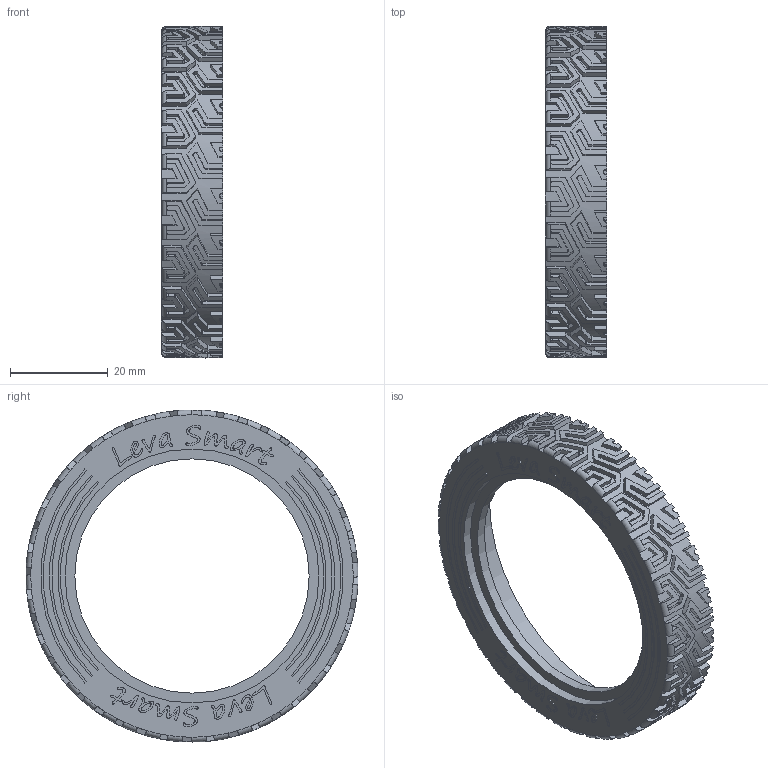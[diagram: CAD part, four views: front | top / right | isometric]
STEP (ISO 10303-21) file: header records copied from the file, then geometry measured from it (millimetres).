
FILE_DESCRIPTION(/* description */ ('STEP AP242 Edition 2','CAx-IF Rec.Pracs.---Representation and Presentation of Product Manufacturing Information (PMI)---4.0---2014-10-13','CAx-IF Rec.Pracs.---3D Tessellated Geometry---0.4---2014-09-14','2;1','CAx-IF Rec.Pracs.---User Defined Attributes---1.5---2016-08-15'),/* implementation_level */ '2;1');
FILE_NAME(/* name */ 'Assem2h - Tire (7)',/* time_stamp */ '2025-12-01T14:50:37Z',/* author */ (''),/* organization */ (''),/* preprocessor_version */ 'ST-DEVELOPER v20',/* originating_system */ 'ONSHAPE BY PTC INC, 1.207',/* authorisation */ ' ');
FILE_SCHEMA (('AP242_MANAGED_MODEL_BASED_3D_ENGINEERING_MIM_LF { 1 0 10303 442 3 1 4 }'));
Products named in the file (1): Tire
Bounding box: 12.6 x 68 x 68 mm (x, y, z)
Volume: 9283 mm3; surface area: 11223.7 mm2
Topology: 1 solids, 1 shells, 1636 faces, 4627 edges, 3026 vertices
Faces by surface type: plane 763, cylinder 561, bspline 268, torus 44
Full cylindrical faces by diameter (mm): 48 x1, 52 x1, 56 x1, 62 x1, 66 x1
Entity records: 66134 total; most frequent: CARTESIAN_POINT 26095, ORIENTED_EDGE 9240, DIRECTION 7220, EDGE_CURVE 4620, VERTEX_POINT 3024, AXIS2_PLACEMENT_3D 2555, LINE 2110, VECTOR 2110
